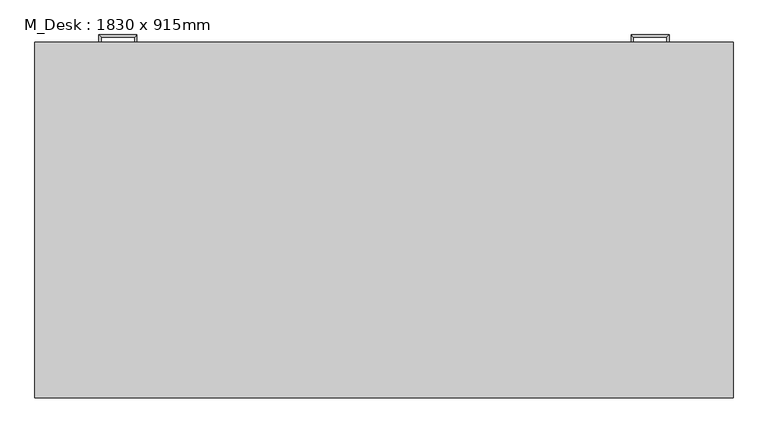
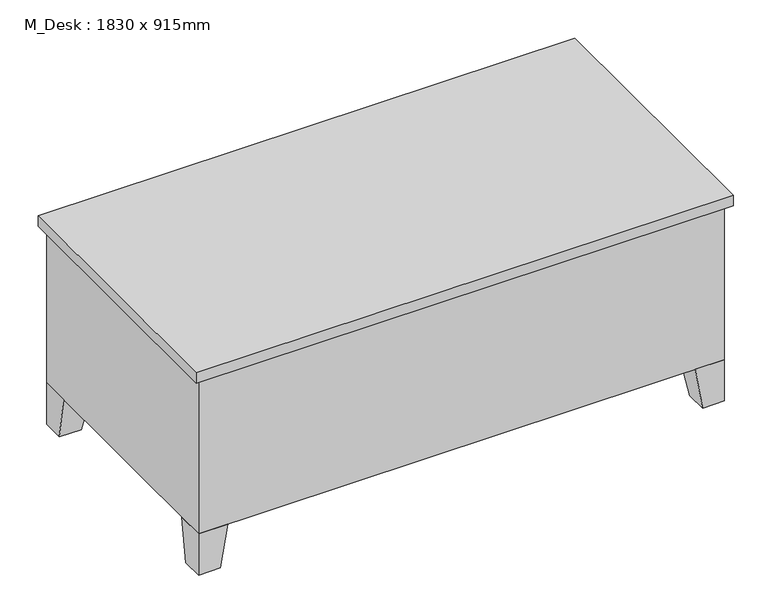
"""IFC4 building model written with IfcOpenShell, lengths in millimetres: furniture geometry, M_Desk : 1830 x 915mm."""

from ifc_helpers import new_model, si_unit, frame, origin, place, context, project, spatial, polyline, outline, extrude, faceted_brep, source, transform, mapped, element, save


def m_desk_1830_x_915mm_d81ff609(model_context):
    return source(origin(), model_context, "Body", "SolidModel", [
        extrude(outline(polyline([(1810.95, 915.0), (1442.65, 915.0), (1442.65, 927.7), (1810.95, 927.7), (1810.95, 915.0)])), frame((0.0, 0.0, 603.25), z_axis=(0.0, 0.0, 1.0), x_axis=(1.0, 0.0, 0.0)), (0.0, 0.0, 1.0), 101.6),
        extrude(outline(polyline([(1810.95, 915.0), (1442.65, 915.0), (1442.65, 927.7), (1810.95, 927.7), (1810.95, 915.0)])), frame((0.0, 0.0, 171.05), z_axis=(0.0, 0.0, 1.0), x_axis=(1.0, 0.0, 0.0)), (0.0, 0.0, 1.0), 413.15),
        extrude(outline(polyline([(387.35, 915.0), (19.05, 915.0), (19.05, 927.7), (387.35, 927.7), (387.35, 915.0)])), frame((0.0, 0.0, 602.85), z_axis=(0.0, 0.0, 1.0), x_axis=(1.0, 0.0, 0.0)), (0.0, 0.0, 1.0), 102.0),
        extrude(outline(polyline([(387.35, 915.0), (19.05, 915.0), (19.05, 927.7), (387.35, 927.7), (387.35, 915.0)])), frame((0.0, 0.0, 171.05), z_axis=(0.0, 0.0, 1.0), x_axis=(1.0, 0.0, 0.0)), (0.0, 0.0, 1.0), 171.45),
        extrude(outline(polyline([(387.35, 915.0), (19.05, 915.0), (19.05, 927.7), (387.35, 927.7), (387.35, 915.0)])), frame((0.0, 0.0, 482.2), z_axis=(0.0, 0.0, 1.0), x_axis=(1.0, 0.0, 0.0)), (0.0, 0.0, 1.0), 101.6),
        extrude(outline(polyline([(387.35, 915.0), (19.05, 915.0), (19.05, 927.7), (387.35, 927.7), (387.35, 915.0)])), frame((0.0, 0.0, 361.55), z_axis=(0.0, 0.0, 1.0), x_axis=(1.0, 0.0, 0.0)), (0.0, 0.0, 1.0), 101.6),
        faceted_brep([(1728.4, 915.0, 152.0), (1728.4, 813.4, 152.0), (1830.0, 813.4, 152.0), (1830.0, 915.0, 152.0), (1753.8, 915.0, 0.0), (1830.0, 915.0, 0.0), (1830.0, 838.8, 0.0), (1753.8, 838.8, 0.0)], [[[0, 1, 2, 3]], [[4, 5, 6, 7]], [[4, 7, 1, 0]], [[7, 6, 2, 1]], [[6, 5, 3, 2]], [[5, 4, 0, 3]]]),
        faceted_brep([(1728.4, 0.0, 152.0), (1830.0, 0.0, 152.0), (1830.0, 101.6, 152.0), (1728.4, 101.6, 152.0), (1753.8, 0.0, 0.0), (1753.8, 76.2, 0.0), (1830.0, 76.2, 0.0), (1830.0, 0.0, 0.0)], [[[0, 1, 2, 3]], [[4, 5, 6, 7]], [[4, 7, 1, 0]], [[7, 6, 2, 1]], [[6, 5, 3, 2]], [[5, 4, 0, 3]]]),
        faceted_brep([(101.6, 0.0, 152.0), (101.6, 101.6, 152.0), (0.0, 101.6, 152.0), (0.0, 0.0, 152.0), (76.2, 0.0, 0.0), (0.0, 0.0, 0.0), (0.0, 76.2, 0.0), (76.2, 76.2, 0.0)], [[[0, 1, 2, 3]], [[4, 5, 6, 7]], [[4, 7, 1, 0]], [[7, 6, 2, 1]], [[6, 5, 3, 2]], [[5, 4, 0, 3]]]),
        faceted_brep([(101.6, 915.0, 152.0), (0.0, 915.0, 152.0), (0.0, 813.4, 152.0), (101.6, 813.4, 152.0), (76.2, 915.0, 0.0), (76.2, 838.8, 0.0), (0.0, 838.8, 0.0), (0.0, 915.0, 0.0)], [[[0, 1, 2, 3]], [[4, 5, 6, 7]], [[4, 7, 1, 0]], [[7, 6, 2, 1]], [[6, 5, 3, 2]], [[5, 4, 0, 3]]]),
        extrude(outline(polyline([(1849.05, 934.05), (1849.05, -19.05), (-19.05, -19.05), (-19.05, 934.05), (1849.05, 934.05)])), frame((0.0, 0.0, 723.9), z_axis=(0.0, 0.0, 1.0), x_axis=(1.0, 0.0, 0.0)), (0.0, 0.0, 1.0), 38.1),
        extrude(outline(polyline([(406.4, 915.0), (406.4, 50.8), (1423.6, 50.8), (1423.6, 915.0), (1830.0, 915.0), (1830.0, 0.0), (0.0, 0.0), (0.0, 915.0), (406.4, 915.0)])), frame((0.0, 0.0, 152.0), z_axis=(0.0, 0.0, 1.0), x_axis=(1.0, 0.0, 0.0)), (0.0, 0.0, 1.0), 571.9),
        faceted_brep([(1671.25, 927.7, 546.1), (1671.25, 927.7, 533.4), (1677.6, 927.7, 533.4), (1677.6, 927.7, 546.1), (1671.25, 946.75, 546.1), (1671.25, 946.75, 533.4), (1677.6, 953.1, 533.4), (1677.6, 953.1, 546.1), (1582.35, 946.75, 546.1), (1582.35, 946.75, 533.4), (1576.0, 953.1, 533.4), (1576.0, 953.1, 546.1), (1582.35, 927.7, 546.1), (1576.0, 927.7, 546.1), (1576.0, 927.7, 533.4), (1582.35, 927.7, 533.4)], [[[0, 1, 2, 3]], [[1, 0, 4, 5]], [[2, 1, 5, 6]], [[3, 2, 6, 7]], [[0, 3, 7, 4]], [[5, 4, 8, 9]], [[6, 5, 9, 10]], [[7, 6, 10, 11]], [[4, 7, 11, 8]], [[12, 13, 14, 15]], [[9, 8, 12, 15]], [[10, 9, 15, 14]], [[11, 10, 14, 13]], [[8, 11, 13, 12]]]),
        faceted_brep([(1671.25, 927.7, 666.75), (1671.25, 927.7, 654.05), (1677.6, 927.7, 654.05), (1677.6, 927.7, 666.75), (1671.25, 946.75, 666.75), (1671.25, 946.75, 654.05), (1677.6, 953.1, 654.05), (1677.6, 953.1, 666.75), (1582.35, 946.75, 666.75), (1582.35, 946.75, 654.05), (1576.0, 953.1, 654.05), (1576.0, 953.1, 666.75), (1582.35, 927.7, 666.75), (1576.0, 927.7, 666.75), (1576.0, 927.7, 654.05), (1582.35, 927.7, 654.05)], [[[0, 1, 2, 3]], [[1, 0, 4, 5]], [[2, 1, 5, 6]], [[3, 2, 6, 7]], [[0, 3, 7, 4]], [[5, 4, 8, 9]], [[6, 5, 9, 10]], [[7, 6, 10, 11]], [[4, 7, 11, 8]], [[12, 13, 14, 15]], [[9, 8, 12, 15]], [[10, 9, 15, 14]], [[11, 10, 14, 13]], [[8, 11, 13, 12]]]),
        faceted_brep([(158.75, 927.7, 304.8), (152.4, 927.7, 304.8), (152.4, 927.7, 292.1), (158.75, 927.7, 292.1), (158.75, 946.75, 304.8), (152.4, 953.1, 304.8), (152.4, 953.1, 292.1), (158.75, 946.75, 292.1), (247.65, 946.75, 304.8), (254.0, 953.1, 304.8), (254.0, 953.1, 292.1), (247.65, 946.75, 292.1), (247.65, 927.7, 304.8), (247.65, 927.7, 292.1), (254.0, 927.7, 292.1), (254.0, 927.7, 304.8)], [[[0, 1, 2, 3]], [[1, 0, 4, 5]], [[2, 1, 5, 6]], [[3, 2, 6, 7]], [[0, 3, 7, 4]], [[5, 4, 8, 9]], [[6, 5, 9, 10]], [[7, 6, 10, 11]], [[4, 7, 11, 8]], [[12, 13, 14, 15]], [[9, 8, 12, 15]], [[10, 9, 15, 14]], [[11, 10, 14, 13]], [[8, 11, 13, 12]]]),
        faceted_brep([(158.75, 927.7, 425.45), (152.4, 927.7, 425.45), (152.4, 927.7, 412.75), (158.75, 927.7, 412.75), (158.75, 946.75, 425.45), (152.4, 953.1, 425.45), (152.4, 953.1, 412.75), (158.75, 946.75, 412.75), (247.65, 946.75, 425.45), (254.0, 953.1, 425.45), (254.0, 953.1, 412.75), (247.65, 946.75, 412.75), (247.65, 927.7, 425.45), (247.65, 927.7, 412.75), (254.0, 927.7, 412.75), (254.0, 927.7, 425.45)], [[[0, 1, 2, 3]], [[1, 0, 4, 5]], [[2, 1, 5, 6]], [[3, 2, 6, 7]], [[0, 3, 7, 4]], [[5, 4, 8, 9]], [[6, 5, 9, 10]], [[7, 6, 10, 11]], [[4, 7, 11, 8]], [[12, 13, 14, 15]], [[9, 8, 12, 15]], [[10, 9, 15, 14]], [[11, 10, 14, 13]], [[8, 11, 13, 12]]]),
        faceted_brep([(158.75, 927.7, 546.1), (152.4, 927.7, 546.1), (152.4, 927.7, 533.4), (158.75, 927.7, 533.4), (158.75, 946.75, 546.1), (152.4, 953.1, 546.1), (152.4, 953.1, 533.4), (158.75, 946.75, 533.4), (247.65, 946.75, 546.1), (254.0, 953.1, 546.1), (254.0, 953.1, 533.4), (247.65, 946.75, 533.4), (247.65, 927.7, 546.1), (247.65, 927.7, 533.4), (254.0, 927.7, 533.4), (254.0, 927.7, 546.1)], [[[0, 1, 2, 3]], [[1, 0, 4, 5]], [[2, 1, 5, 6]], [[3, 2, 6, 7]], [[0, 3, 7, 4]], [[5, 4, 8, 9]], [[6, 5, 9, 10]], [[7, 6, 10, 11]], [[4, 7, 11, 8]], [[12, 13, 14, 15]], [[9, 8, 12, 15]], [[10, 9, 15, 14]], [[11, 10, 14, 13]], [[8, 11, 13, 12]]]),
        faceted_brep([(158.75, 927.7, 666.75), (152.4, 927.7, 666.75), (152.4, 927.7, 654.05), (158.75, 927.7, 654.05), (158.75, 946.75, 666.75), (152.4, 953.1, 666.75), (152.4, 953.1, 654.05), (158.75, 946.75, 654.05), (247.65, 946.75, 666.75), (254.0, 953.1, 666.75), (254.0, 953.1, 654.05), (247.65, 946.75, 654.05), (247.65, 927.7, 666.75), (247.65, 927.7, 654.05), (254.0, 927.7, 654.05), (254.0, 927.7, 666.75)], [[[0, 1, 2, 3]], [[1, 0, 4, 5]], [[2, 1, 5, 6]], [[3, 2, 6, 7]], [[0, 3, 7, 4]], [[5, 4, 8, 9]], [[6, 5, 9, 10]], [[7, 6, 10, 11]], [[4, 7, 11, 8]], [[12, 13, 14, 15]], [[9, 8, 12, 15]], [[10, 9, 15, 14]], [[11, 10, 14, 13]], [[8, 11, 13, 12]]]),
    ])


if __name__ == "__main__":
    model = new_model("IFC4")
    model_context = context("Model", 3, world=origin())
    ifc_project = project(units=[si_unit("LENGTHUNIT", "METRE", prefix="MILLI")], contexts=[model_context])
    site = spatial("IfcSite", under=ifc_project)
    building = spatial("IfcBuilding", under=site)
    placement = place(None, origin())
    m_desk_1830_x_915mm_shape = m_desk_1830_x_915mm_d81ff609(model_context)
    element("IfcFurniture", 1, ObjectType="M_Desk : 1830 x 915mm", at=placement, inside=building, context=model_context, shape_type="MappedRepresentation", body=[
        mapped(m_desk_1830_x_915mm_shape, transform((0.0, 0.0, 0.0), x_axis=(1.0, 0.0, 0.0), y_axis=(0.0, 1.0, 0.0), z_axis=(0.0, 0.0, 1.0))),
    ])
    save(model, "model.ifc")
